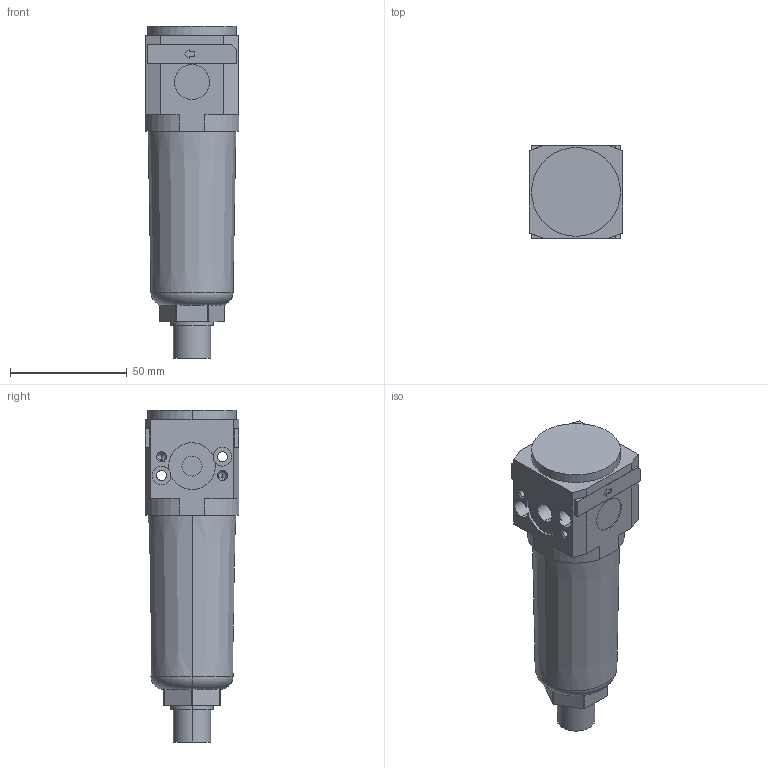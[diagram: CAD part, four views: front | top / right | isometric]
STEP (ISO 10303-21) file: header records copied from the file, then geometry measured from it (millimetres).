
FILE_DESCRIPTION((''),'2;1');
FILE_NAME('I:\DOC-EDP\Lib-3d\FRL\17108A_P.stp','2003-06-16T14:50:35',('maffial1'),(''),'Autodesk Inventor 7','Autodesk Inventor 7','');
FILE_SCHEMA(('AUTOMOTIVE_DESIGN { 1 0 10303 214 1 1 1 1 }'));
Length unit declared in the file: millimetre
Products named in the file (1): 17108A_P
Bounding box: 40 x 40 x 142 mm (x, y, z)
Volume: 144293.3 mm3; surface area: 25232.8 mm2
Topology: 1 solids, 3 shells, 167 faces, 416 edges, 264 vertices
Faces by surface type: plane 56, bspline 55, cylinder 44, cone 10, torus 2
Entity records: 5367 total; most frequent: CARTESIAN_POINT 1457, ORIENTED_EDGE 816, DIRECTION 778, EDGE_CURVE 408, VERTEX_POINT 264, AXIS2_PLACEMENT_3D 263, VECTOR 252, LINE 252
